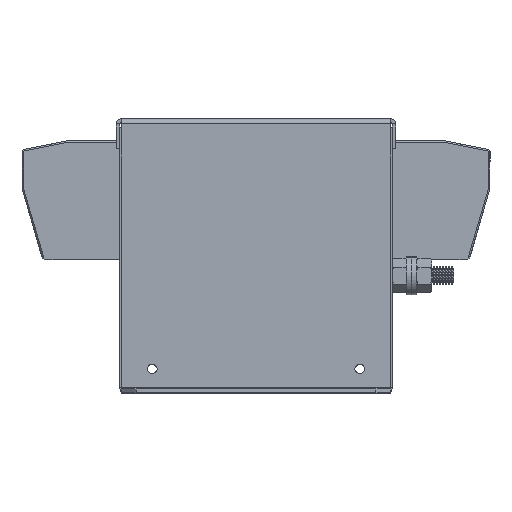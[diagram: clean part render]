
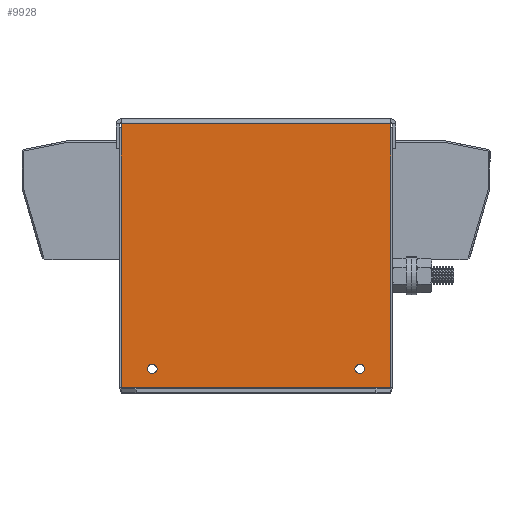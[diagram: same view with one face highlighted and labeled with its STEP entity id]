
A CAD part, top view. The second image highlights one B-rep face of the part: STEP entity #9928.
In plain terms, the highlighted planar face has unit normal (0, 0, 1).
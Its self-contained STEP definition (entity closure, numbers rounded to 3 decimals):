
#100 = EDGE_LOOP ( 'NONE', ( #12612, #1729 ) ) ;
#179 = AXIS2_PLACEMENT_3D ( 'NONE', #7548, #1248, #7456 ) ;
#428 = CARTESIAN_POINT ( 'NONE',  ( 91.5, 0., 1.2 ) ) ;
#563 = LINE ( 'NONE', #10570, #13063 ) ;
#779 = CARTESIAN_POINT ( 'NONE',  ( 11., -84.8, 1.2 ) ) ;
#786 = VERTEX_POINT ( 'NONE', #6745 ) ;
#884 = FACE_BOUND ( 'NONE', #11507, .T. ) ;
#927 = DIRECTION ( 'NONE',  ( -1., 0., 0. ) ) ;
#981 = DIRECTION ( 'NONE',  ( 0., 0., -1. ) ) ;
#1010 = AXIS2_PLACEMENT_3D ( 'NONE', #12307, #7172, #6011 ) ;
#1248 = DIRECTION ( 'NONE',  ( 0., 0., -1. ) ) ;
#1447 = FACE_BOUND ( 'NONE', #100, .T. ) ;
#1534 = EDGE_CURVE ( 'NONE', #8174, #5924, #4671, .T. ) ;
#1608 = CARTESIAN_POINT ( 'NONE',  ( 81., -83.2, 1.2 ) ) ;
#1655 = DIRECTION ( 'NONE',  ( 0., 0., -1. ) ) ;
#1729 = ORIENTED_EDGE ( 'NONE', *, *, #5473, .T. ) ;
#1989 = DIRECTION ( 'NONE',  ( 0., -1., 0. ) ) ;
#2070 = ORIENTED_EDGE ( 'NONE', *, *, #2810, .T. ) ;
#2119 = DIRECTION ( 'NONE',  ( 0., 1., 0. ) ) ;
#2785 = LINE ( 'NONE', #428, #13653 ) ;
#2810 = EDGE_CURVE ( 'NONE', #7225, #5924, #6432, .T. ) ;
#4054 = EDGE_CURVE ( 'NONE', #8174, #12019, #2785, .T. ) ;
#4115 = EDGE_CURVE ( 'NONE', #786, #8209, #9529, .T. ) ;
#4144 = CIRCLE ( 'NONE', #11081, 1.6 ) ;
#4169 = CARTESIAN_POINT ( 'NONE',  ( 11., -83.2, 1.2 ) ) ;
#4671 = LINE ( 'NONE', #7073, #11716 ) ;
#4820 = FACE_OUTER_BOUND ( 'NONE', #12214, .T. ) ;
#5473 = EDGE_CURVE ( 'NONE', #6854, #10355, #11609, .T. ) ;
#5782 = DIRECTION ( 'NONE',  ( 0., 1., 0. ) ) ;
#5924 = VERTEX_POINT ( 'NONE', #12701 ) ;
#6011 = DIRECTION ( 'NONE',  ( 0., 1., 0. ) ) ;
#6278 = ORIENTED_EDGE ( 'NONE', *, *, #4054, .T. ) ;
#6432 = LINE ( 'NONE', #10534, #7779 ) ;
#6654 = CARTESIAN_POINT ( 'NONE',  ( 0.5, -0.5, 1.2 ) ) ;
#6745 = CARTESIAN_POINT ( 'NONE',  ( 81., -84.8, 1.2 ) ) ;
#6854 = VERTEX_POINT ( 'NONE', #779 ) ;
#6980 = CARTESIAN_POINT ( 'NONE',  ( 11., -81.6, 1.2 ) ) ;
#7073 = CARTESIAN_POINT ( 'NONE',  ( 91.5, -89.5, 1.2 ) ) ;
#7103 = ORIENTED_EDGE ( 'NONE', *, *, #1534, .F. ) ;
#7172 = DIRECTION ( 'NONE',  ( 0., 0., -1. ) ) ;
#7191 = CARTESIAN_POINT ( 'NONE',  ( 81., -81.6, 1.2 ) ) ;
#7225 = VERTEX_POINT ( 'NONE', #6654 ) ;
#7456 = DIRECTION ( 'NONE',  ( 0., 1., 0. ) ) ;
#7548 = CARTESIAN_POINT ( 'NONE',  ( 11., -83.2, 1.2 ) ) ;
#7779 = VECTOR ( 'NONE', #1989, 1000. ) ;
#8174 = VERTEX_POINT ( 'NONE', #13492 ) ;
#8209 = VERTEX_POINT ( 'NONE', #7191 ) ;
#8357 = AXIS2_PLACEMENT_3D ( 'NONE', #1608, #1655, #5782 ) ;
#8385 = DIRECTION ( 'NONE',  ( 0., 0., -1. ) ) ;
#8981 = ORIENTED_EDGE ( 'NONE', *, *, #4115, .T. ) ;
#9302 = AXIS2_PLACEMENT_3D ( 'NONE', #4169, #8385, #10324 ) ;
#9529 = CIRCLE ( 'NONE', #8357, 1.6 ) ;
#9750 = ORIENTED_EDGE ( 'NONE', *, *, #10015, .F. ) ;
#9928 = ADVANCED_FACE ( 'NONE', ( #1447, #884, #4820 ), #12450, .F. ) ;
#10015 = EDGE_CURVE ( 'NONE', #7225, #12019, #563, .T. ) ;
#10033 = ORIENTED_EDGE ( 'NONE', *, *, #11550, .T. ) ;
#10324 = DIRECTION ( 'NONE',  ( 0., 1., 0. ) ) ;
#10355 = VERTEX_POINT ( 'NONE', #6980 ) ;
#10487 = DIRECTION ( 'NONE',  ( 1., 0., 0. ) ) ;
#10534 = CARTESIAN_POINT ( 'NONE',  ( 0.5, -90., 1.2 ) ) ;
#10570 = CARTESIAN_POINT ( 'NONE',  ( 0.5, -0.5, 1.2 ) ) ;
#10928 = EDGE_CURVE ( 'NONE', #10355, #6854, #12199, .T. ) ;
#11081 = AXIS2_PLACEMENT_3D ( 'NONE', #13580, #981, #2119 ) ;
#11507 = EDGE_LOOP ( 'NONE', ( #10033, #8981 ) ) ;
#11523 = CARTESIAN_POINT ( 'NONE',  ( 91.5, -0.5, 1.2 ) ) ;
#11550 = EDGE_CURVE ( 'NONE', #8209, #786, #4144, .T. ) ;
#11609 = CIRCLE ( 'NONE', #179, 1.6 ) ;
#11716 = VECTOR ( 'NONE', #927, 1000. ) ;
#11859 = DIRECTION ( 'NONE',  ( 0., 1., 0. ) ) ;
#12019 = VERTEX_POINT ( 'NONE', #11523 ) ;
#12199 = CIRCLE ( 'NONE', #9302, 1.6 ) ;
#12214 = EDGE_LOOP ( 'NONE', ( #7103, #6278, #9750, #2070 ) ) ;
#12307 = CARTESIAN_POINT ( 'NONE',  ( 0.5, 0., 1.2 ) ) ;
#12450 = PLANE ( 'NONE',  #1010 ) ;
#12612 = ORIENTED_EDGE ( 'NONE', *, *, #10928, .T. ) ;
#12701 = CARTESIAN_POINT ( 'NONE',  ( 0.5, -89.5, 1.2 ) ) ;
#13063 = VECTOR ( 'NONE', #10487, 1000. ) ;
#13492 = CARTESIAN_POINT ( 'NONE',  ( 91.5, -89.5, 1.2 ) ) ;
#13580 = CARTESIAN_POINT ( 'NONE',  ( 81., -83.2, 1.2 ) ) ;
#13653 = VECTOR ( 'NONE', #11859, 1000. ) ;
